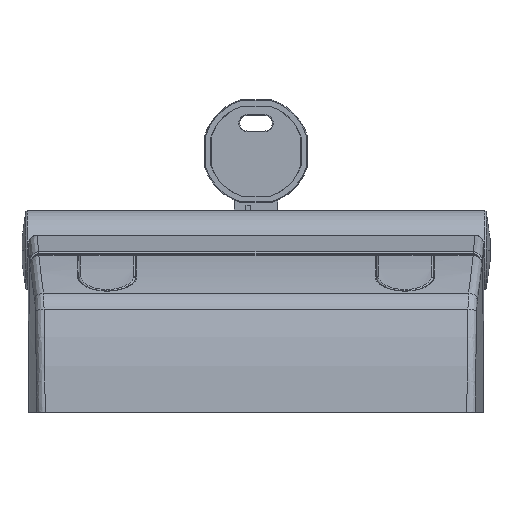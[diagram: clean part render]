
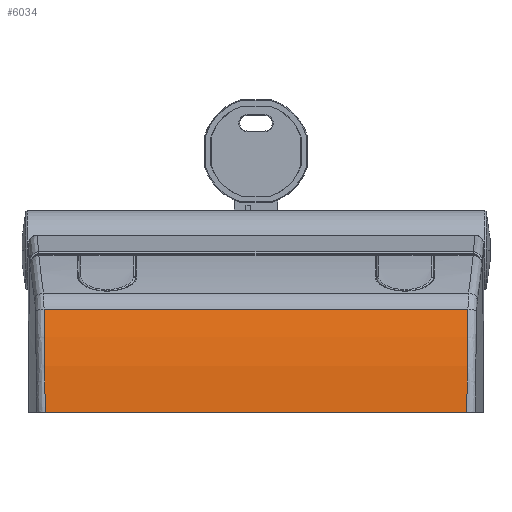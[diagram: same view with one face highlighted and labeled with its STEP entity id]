
A CAD part, left-side view. The second image highlights one B-rep face of the part: STEP entity #6034.
In plain terms, the highlighted cylindrical face has radius 86.5 mm (diameter 173 mm), a partial arc.
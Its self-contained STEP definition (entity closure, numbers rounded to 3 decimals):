
#6034=ADVANCED_FACE('NONE',(#14007),#14008,.T.);
#14007=FACE_OUTER_BOUND('',#36541,.T.);
#14008=CYLINDRICAL_SURFACE('',#36542,86.5);
#36541=EDGE_LOOP('',(#70446,#70447,#70448,#70449));
#36542=AXIS2_PLACEMENT_3D('',#70450,#70451,#70452);
#70446=ORIENTED_EDGE('',*,*,#93251,.T.);
#70447=ORIENTED_EDGE('',*,*,#93084,.F.);
#70448=ORIENTED_EDGE('',*,*,#93252,.T.);
#70449=ORIENTED_EDGE('',*,*,#92387,.T.);
#70450=CARTESIAN_POINT('',(44.5,148.0,0.));
#70451=DIRECTION('',(0.0,-1.0,0.));
#70452=DIRECTION('',(-1.0,0.0,0.0));
#92387=EDGE_CURVE('NONE',#107251,#107255,#107257,.T.);
#93084=EDGE_CURVE('NONE',#108272,#108274,#108275,.T.);
#93251=EDGE_CURVE('NONE',#107255,#108274,#108501,.T.);
#93252=EDGE_CURVE('NONE',#108272,#107251,#108502,.T.);
#107251=VERTEX_POINT('NONE',#134347);
#107255=VERTEX_POINT('NONE',#134356);
#107257=B_SPLINE_CURVE_WITH_KNOTS('',3,(#134358,#134359,#134360,#134361,#134362,#134363),.UNSPECIFIED.,.F.,.F.,(4,2,4),(0.,0.012,0.024),.UNSPECIFIED.);
#108272=VERTEX_POINT('NONE',#136648);
#108274=VERTEX_POINT('NONE',#136650);
#108275=B_SPLINE_CURVE_WITH_KNOTS('',3,(#136651,#136652,#136653,#136654,#136655,#136656),.UNSPECIFIED.,.F.,.F.,(4,2,4),(0.,0.012,0.024),.UNSPECIFIED.);
#108501=LINE('',#137118,#137119);
#108502=LINE('',#137120,#137121);
#134347=CARTESIAN_POINT('',(-42.0,151.847,0.));
#134356=CARTESIAN_POINT('',(-38.735,151.607,23.54));
#134358=CARTESIAN_POINT('',(-42.0,151.847,0.));
#134359=CARTESIAN_POINT('',(-42.0,151.847,3.999));
#134360=CARTESIAN_POINT('',(-41.724,151.826,7.96));
#134361=CARTESIAN_POINT('',(-40.636,151.745,15.807));
#134362=CARTESIAN_POINT('',(-39.823,151.685,19.693));
#134363=CARTESIAN_POINT('',(-38.735,151.607,23.54));
#136648=CARTESIAN_POINT('',(-42.0,248.153,0.));
#136650=CARTESIAN_POINT('',(-38.735,248.393,23.54));
#136651=CARTESIAN_POINT('',(-42.0,248.153,0.));
#136652=CARTESIAN_POINT('',(-42.0,248.153,3.999));
#136653=CARTESIAN_POINT('',(-41.724,248.174,7.96));
#136654=CARTESIAN_POINT('',(-40.636,248.255,15.807));
#136655=CARTESIAN_POINT('',(-39.823,248.315,19.693));
#136656=CARTESIAN_POINT('',(-38.735,248.393,23.54));
#137118=CARTESIAN_POINT('',(-38.735,148.0,23.54));
#137119=VECTOR('',#157445,1000.0);
#137120=CARTESIAN_POINT('',(-42.0,252.0,0.));
#137121=VECTOR('',#157446,1000.0);
#157445=DIRECTION('',(0.0,1.0,0.));
#157446=DIRECTION('',(0.0,-1.0,0.));
